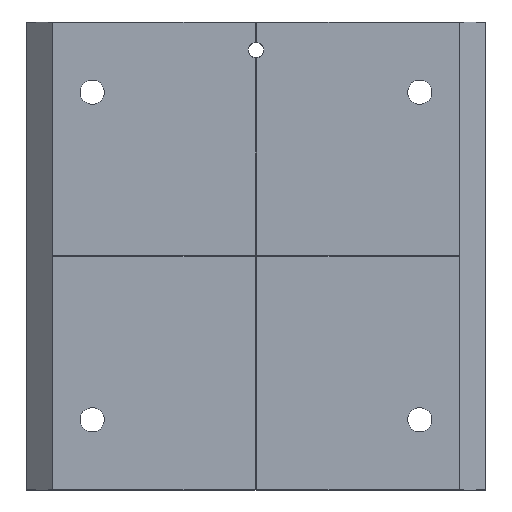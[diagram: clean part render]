
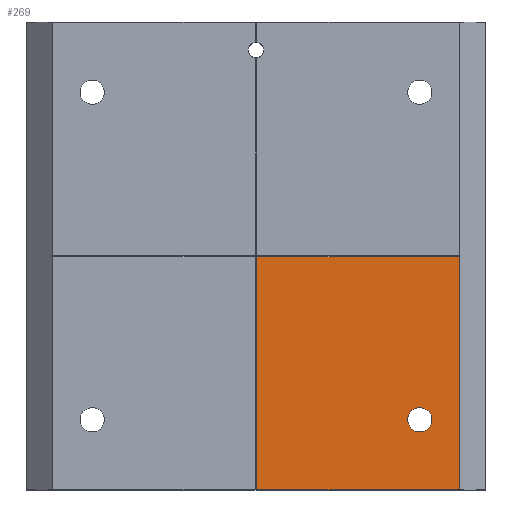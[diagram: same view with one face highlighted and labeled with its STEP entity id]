
A CAD part, top view. The second image highlights one B-rep face of the part: STEP entity #269.
In plain terms, the highlighted planar face has unit normal (0, 0, 1).
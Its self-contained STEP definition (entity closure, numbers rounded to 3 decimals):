
#16 = VERTEX_POINT ( 'NONE', #476 ) ;
#25 = ORIENTED_EDGE ( 'NONE', *, *, #1339, .T. ) ;
#93 = LINE ( 'NONE', #674, #707 ) ;
#116 = EDGE_CURVE ( 'NONE', #556, #823, #93, .T. ) ;
#241 = CARTESIAN_POINT ( 'NONE',  ( 37.6, -34.5, 22. ) ) ;
#269 = ADVANCED_FACE ( 'NONE', ( #493, #1164 ), #1047, .T. ) ;
#274 = DIRECTION ( 'NONE',  ( -1., 0., 0. ) ) ;
#281 = CARTESIAN_POINT ( 'NONE',  ( -50., 0.35, 22. ) ) ;
#294 = CARTESIAN_POINT ( 'NONE',  ( 0.15, -49.5, 22. ) ) ;
#299 = DIRECTION ( 'NONE',  ( 0., -1., 0. ) ) ;
#323 = DIRECTION ( 'NONE',  ( -1., 0., 0. ) ) ;
#324 = DIRECTION ( 'NONE',  ( 0., 0., -1. ) ) ;
#325 = ORIENTED_EDGE ( 'NONE', *, *, #1351, .T. ) ;
#326 = CARTESIAN_POINT ( 'NONE',  ( 35., -34.5, 22. ) ) ;
#345 = CARTESIAN_POINT ( 'NONE',  ( 43.5, -49.5, 22. ) ) ;
#388 = EDGE_CURVE ( 'NONE', #16, #1376, #1386, .T. ) ;
#392 = LINE ( 'NONE', #694, #534 ) ;
#393 = LINE ( 'NONE', #294, #510 ) ;
#454 = VERTEX_POINT ( 'NONE', #1406 ) ;
#476 = CARTESIAN_POINT ( 'NONE',  ( 32.4, -34.5, 22. ) ) ;
#479 = LINE ( 'NONE', #281, #491 ) ;
#491 = VECTOR ( 'NONE', #274, 1000. ) ;
#493 = FACE_OUTER_BOUND ( 'NONE', #1035, .T. ) ;
#506 = CIRCLE ( 'NONE', #1042, 2.6 ) ;
#510 = VECTOR ( 'NONE', #299, 1000. ) ;
#534 = VECTOR ( 'NONE', #673, 1000. ) ;
#556 = VERTEX_POINT ( 'NONE', #345 ) ;
#673 = DIRECTION ( 'NONE',  ( 1., 0., 0. ) ) ;
#674 = CARTESIAN_POINT ( 'NONE',  ( 43.5, -49.5, 22. ) ) ;
#694 = CARTESIAN_POINT ( 'NONE',  ( -50., -49.5, 22. ) ) ;
#707 = VECTOR ( 'NONE', #718, 1000. ) ;
#718 = DIRECTION ( 'NONE',  ( 0., 1., 0. ) ) ;
#823 = VERTEX_POINT ( 'NONE', #1345 ) ;
#890 = VERTEX_POINT ( 'NONE', #1249 ) ;
#944 = ORIENTED_EDGE ( 'NONE', *, *, #388, .T. ) ;
#971 = ORIENTED_EDGE ( 'NONE', *, *, #1259, .T. ) ;
#1032 = DIRECTION ( 'NONE',  ( 0., 0., 1. ) ) ;
#1035 = EDGE_LOOP ( 'NONE', ( #325, #25, #971, #1354 ) ) ;
#1042 = AXIS2_PLACEMENT_3D ( 'NONE', #326, #324, #323 ) ;
#1044 = CARTESIAN_POINT ( 'NONE',  ( -50., -49.5, 22. ) ) ;
#1047 = PLANE ( 'NONE',  #1178 ) ;
#1061 = DIRECTION ( 'NONE',  ( 1., 0., 0. ) ) ;
#1156 = AXIS2_PLACEMENT_3D ( 'NONE', #1275, #1269, #1279 ) ;
#1164 = FACE_BOUND ( 'NONE', #1353, .T. ) ;
#1178 = AXIS2_PLACEMENT_3D ( 'NONE', #1044, #1032, #1061 ) ;
#1235 = ORIENTED_EDGE ( 'NONE', *, *, #1318, .T. ) ;
#1249 = CARTESIAN_POINT ( 'NONE',  ( 0.15, 0.35, 22. ) ) ;
#1259 = EDGE_CURVE ( 'NONE', #454, #556, #392, .T. ) ;
#1269 = DIRECTION ( 'NONE',  ( 0., 0., -1. ) ) ;
#1275 = CARTESIAN_POINT ( 'NONE',  ( 35., -34.5, 22. ) ) ;
#1279 = DIRECTION ( 'NONE',  ( -1., 0., 0. ) ) ;
#1318 = EDGE_CURVE ( 'NONE', #1376, #16, #506, .T. ) ;
#1339 = EDGE_CURVE ( 'NONE', #890, #454, #393, .T. ) ;
#1345 = CARTESIAN_POINT ( 'NONE',  ( 43.5, 0.35, 22. ) ) ;
#1351 = EDGE_CURVE ( 'NONE', #823, #890, #479, .T. ) ;
#1353 = EDGE_LOOP ( 'NONE', ( #944, #1235 ) ) ;
#1354 = ORIENTED_EDGE ( 'NONE', *, *, #116, .T. ) ;
#1376 = VERTEX_POINT ( 'NONE', #241 ) ;
#1386 = CIRCLE ( 'NONE', #1156, 2.6 ) ;
#1406 = CARTESIAN_POINT ( 'NONE',  ( 0.15, -49.5, 22. ) ) ;
